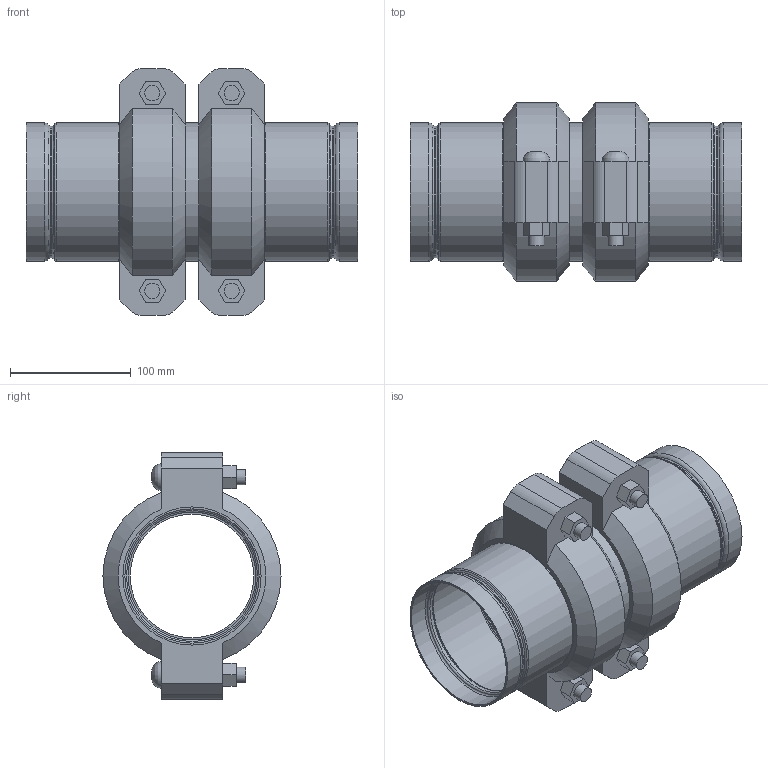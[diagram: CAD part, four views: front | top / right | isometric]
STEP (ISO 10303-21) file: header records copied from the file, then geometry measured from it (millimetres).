
FILE_DESCRIPTION(/* description */ ('VIC STRENGTHIN 100 EXPANSION JOINT 2 COUPLINGS EXPANDED STYLE E155 (ST1)','CAx-IF Rec.Pracs.---Representation and Presentation of Product Manufacturing Information (PMI)---4.0---2014-10-13'),/* implementation_level */ '2;1');
FILE_NAME(/* name */ 'C:\Users\Vjadhav\AppData\Roaming\Autodesk\ApplicationPlugins\Victaulic.Temp\A901\Victaulic_SS-StrengThin 100_Expansion Joint_Expanded_2 Couplings_Style E155 (ST1)_4 (100).stp',/* time_stamp */ '2021-07-23T19:27:01+06:00',/* author */ ('kkamble'),/* organization */ ('Victaulic'),/* preprocessor_version */ 'ST-DEVELOPER v17.2',/* originating_system */ 'Autodesk Inventor 2019',/* authorisation */ '');
FILE_SCHEMA (('AP203_CONFIGURATION_CONTROLLED_3D_DESIGN_OF_MECHANICAL_PARTS_AND_ASSEMBLIES_MIM_LF { 1 0 10303 203 3 1 4 }','AP242_MANAGED_MODEL_BASED_3D_ENGINEERING_MIM_LF { 1 0 10303 442 1 1 4 }'));
Length unit declared in the file: inch
Products named in the file (4): E155-04.0; E494G-04.0; Nipple-04.0; 075-04.0
Assembly tree (5 placements, depth 2):
  E155-04.0
    E494G-04.0  x2
    Nipple-04.0
    075-04.0  x2
Bounding box: 274.07 x 147.32 x 203.96 mm (x, y, z)
Volume: 1195709.1 mm3; surface area: 356537.1 mm2
Topology: 5 solids, 9 shells, 194 faces, 518 edges, 370 vertices
Faces by surface type: plane 90, cylinder 56, torus 32, cone 12, bspline 4
Full cylindrical faces by diameter (mm): 12.7 x8, 14.605 x4, 102.26 x1, 105.639 x2, 106.883 x2, 107.95 x2, 108.839 x2, 110.084 x4, 111.1 x6, 114.3 x13
Entity records: 3702 total; most frequent: DIRECTION 653, CARTESIAN_POINT 651, ORIENTED_EDGE 548, AXIS2_PLACEMENT_3D 277, EDGE_CURVE 274, VERTEX_POINT 197, CIRCLE 167, EDGE_LOOP 129
